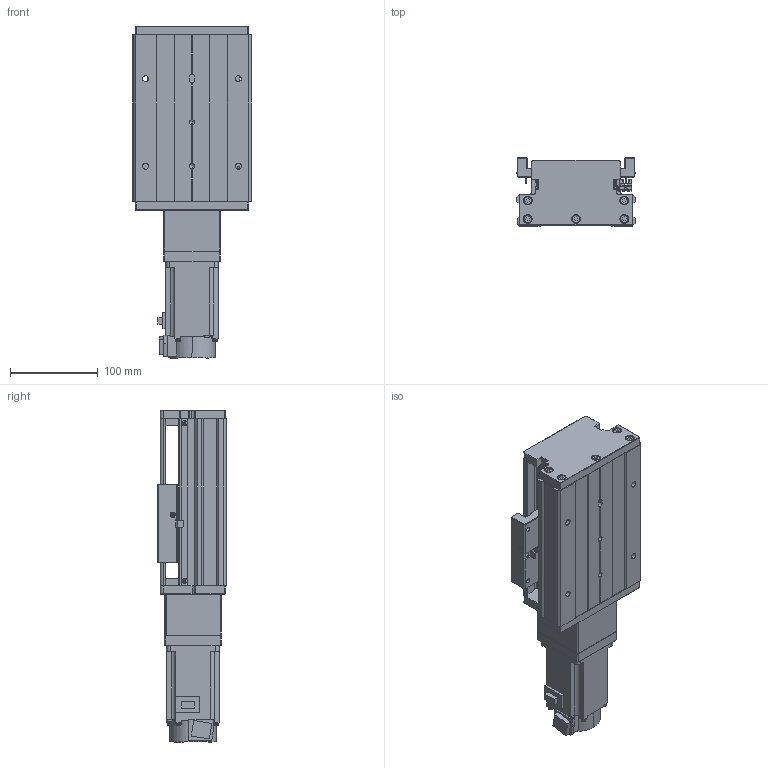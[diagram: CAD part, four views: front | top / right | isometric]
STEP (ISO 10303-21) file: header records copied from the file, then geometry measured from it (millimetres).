
FILE_DESCRIPTION (( 'STEP AP203' ), '1' );
FILE_NAME ('KTH130-50-BC-M40-C4.step', '2023-06-30T03:54:23', ( '微软用户' ), ( '微软中国' ), 'SwSTEP 2.0', 'SolidWorks 2020', '' );
FILE_SCHEMA (( 'CONFIG_CONTROL_DESIGN' ));
Length unit declared in the file: millimetre
Products named in the file (19): GTH14-001_50; CTHA60-017; CTHA86-006-1_M40; KTH130-002_KTH130-002; EE_SX911P_R; CTHA86-013; KTH130-004; CTHA60-016; CTHA86-027-1; KTH130-005; GBT 70.1-M3℅5; HG-KN43J-S100; GB1155-6X6; GBT77-2000 M3×3; KTH130-50-BC-M40-C4; GBT70.1 M5℅16; す晦芛蹟隊 M3℅5; GBT 70.2-M3¡Á5_M3¡Á6; GBT 70.3-M3℅8
Assembly tree (52 placements, depth 2):
  KTH130-50-BC-M40-C4
    GTH14-001_50
    KTH130-002_KTH130-002
    KTH130-004
    KTH130-005
    GB1155-6X6  x2
    GBT70.1 M5℅16  x10
    GBT 70.2-M3¡Á5_M3¡Á6  x4
    CTHA60-017  x3
    EE_SX911P_R  x3
    CTHA60-016  x2
    GBT 70.1-M3℅5  x6
    GBT77-2000 M3×3  x6
    す晦芛蹟隊 M3℅5  x2
    GBT 70.3-M3℅8  x6
    CTHA86-006-1_M40
    CTHA86-013
    CTHA86-027-1
    HG-KN43J-S100
Bounding box: 135 x 78 x 378.7 mm (x, y, z)
Volume: 1909182.6 mm3; surface area: 330840.4 mm2
Topology: 55 solids, 55 shells, 2152 faces, 5206 edges, 3246 vertices
Faces by surface type: plane 1188, cylinder 576, cone 280, torus 96, sphere 12
Entity records: 38958 total; most frequent: CARTESIAN_POINT 8326, DIRECTION 5745, ORIENTED_EDGE 5696, EDGE_CURVE 2848, AXIS2_PLACEMENT_3D 1939, VECTOR 1867, LINE 1867, VERTEX_POINT 1818
